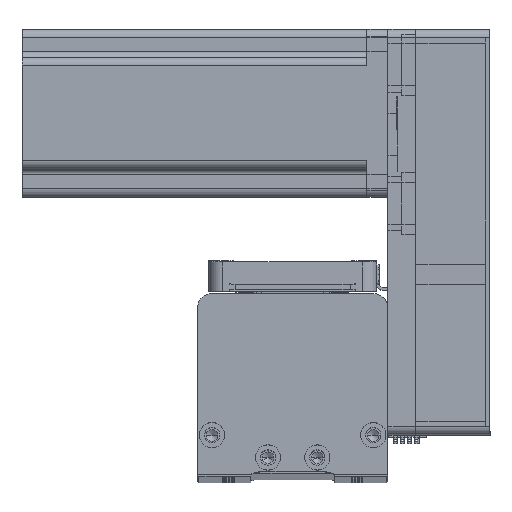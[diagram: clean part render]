
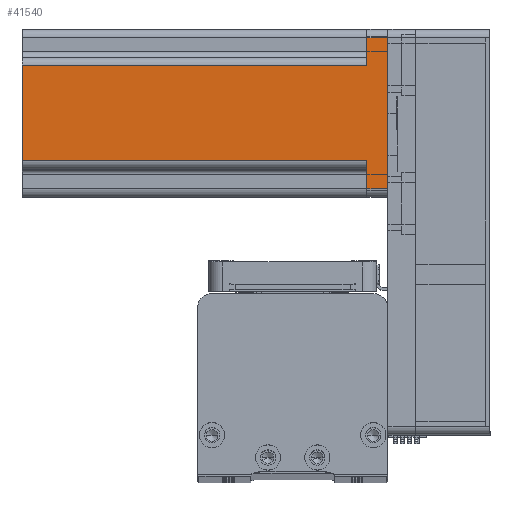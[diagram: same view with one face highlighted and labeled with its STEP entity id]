
A CAD part, top view. The second image highlights one B-rep face of the part: STEP entity #41540.
In plain terms, the highlighted planar face has unit normal (0, 0, 1) as drawn and (0, -1, 0) by its records, which use the part's own axes.
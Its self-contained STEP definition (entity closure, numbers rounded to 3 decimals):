
#156 = ORIENTED_EDGE ( 'NONE', *, *, #40600, .T. ) ;
#1071 = LINE ( 'NONE', #26239, #31840 ) ;
#1643 = CARTESIAN_POINT ( 'NONE',  ( 27., -30., 0. ) ) ;
#2800 = VECTOR ( 'NONE', #44318, 1000. ) ;
#3011 = CARTESIAN_POINT ( 'NONE',  ( 17., -30., 130.7 ) ) ;
#3127 = CARTESIAN_POINT ( 'NONE',  ( 20., -30., 7.5 ) ) ;
#3339 = EDGE_CURVE ( 'NONE', #24637, #8241, #43180, .T. ) ;
#4885 = ORIENTED_EDGE ( 'NONE', *, *, #3339, .T. ) ;
#5422 = PLANE ( 'NONE',  #41170 ) ;
#8241 = VERTEX_POINT ( 'NONE', #44110 ) ;
#8322 = ORIENTED_EDGE ( 'NONE', *, *, #42359, .T. ) ;
#9433 = VECTOR ( 'NONE', #32938, 1000. ) ;
#10915 = EDGE_CURVE ( 'NONE', #48720, #8241, #1071, .T. ) ;
#11987 = ORIENTED_EDGE ( 'NONE', *, *, #30490, .T. ) ;
#12565 = CARTESIAN_POINT ( 'NONE',  ( 27., -30., 7.5 ) ) ;
#13760 = EDGE_CURVE ( 'NONE', #23265, #28102, #33707, .T. ) ;
#14319 = DIRECTION ( 'NONE',  ( 0., 0., -1. ) ) ;
#14521 = DIRECTION ( 'NONE',  ( 0., 0., 1. ) ) ;
#17266 = VERTEX_POINT ( 'NONE', #24046 ) ;
#18992 = CARTESIAN_POINT ( 'NONE',  ( -17., -30., 130.7 ) ) ;
#19292 = ORIENTED_EDGE ( 'NONE', *, *, #13760, .T. ) ;
#19719 = LINE ( 'NONE', #21438, #9433 ) ;
#19871 = CARTESIAN_POINT ( 'NONE',  ( 27., -30., 130.7 ) ) ;
#20418 = ORIENTED_EDGE ( 'NONE', *, *, #46627, .T. ) ;
#20947 = CARTESIAN_POINT ( 'NONE',  ( 30., -30., 130.7 ) ) ;
#21438 = CARTESIAN_POINT ( 'NONE',  ( -17., -30., 130.7 ) ) ;
#22342 = CARTESIAN_POINT ( 'NONE',  ( -27., -30., 0. ) ) ;
#23265 = VERTEX_POINT ( 'NONE', #22342 ) ;
#23429 = VECTOR ( 'NONE', #31584, 1000. ) ;
#24046 = CARTESIAN_POINT ( 'NONE',  ( -17., -30., 7.5 ) ) ;
#24637 = VERTEX_POINT ( 'NONE', #27171 ) ;
#24840 = DIRECTION ( 'NONE',  ( -1., 0., 0. ) ) ;
#26239 = CARTESIAN_POINT ( 'NONE',  ( 30., -30., 130.7 ) ) ;
#26681 = VECTOR ( 'NONE', #45521, 1000. ) ;
#27171 = CARTESIAN_POINT ( 'NONE',  ( 17., -30., 7.5 ) ) ;
#27458 = LINE ( 'NONE', #19871, #46795 ) ;
#28102 = VERTEX_POINT ( 'NONE', #1643 ) ;
#30490 = EDGE_CURVE ( 'NONE', #48720, #17266, #19719, .T. ) ;
#30770 = EDGE_LOOP ( 'NONE', ( #42032, #11987, #44362, #156, #19292, #8322, #20418, #4885 ) ) ;
#31584 = DIRECTION ( 'NONE',  ( 1., 0., 0. ) ) ;
#31840 = VECTOR ( 'NONE', #41609, 1000. ) ;
#32401 = LINE ( 'NONE', #36509, #2800 ) ;
#32938 = DIRECTION ( 'NONE',  ( 0., 0., -1. ) ) ;
#33707 = LINE ( 'NONE', #35133, #23429 ) ;
#35133 = CARTESIAN_POINT ( 'NONE',  ( 30., -30., 0. ) ) ;
#35378 = DIRECTION ( 'NONE',  ( 0., 0., 1. ) ) ;
#35991 = VERTEX_POINT ( 'NONE', #12565 ) ;
#36509 = CARTESIAN_POINT ( 'NONE',  ( -20., -30., 7.5 ) ) ;
#36929 = LINE ( 'NONE', #3127, #26681 ) ;
#37361 = EDGE_CURVE ( 'NONE', #49996, #17266, #32401, .T. ) ;
#39692 = FACE_OUTER_BOUND ( 'NONE', #30770, .T. ) ;
#39845 = VECTOR ( 'NONE', #14319, 1000. ) ;
#40600 = EDGE_CURVE ( 'NONE', #49996, #23265, #41067, .T. ) ;
#41067 = LINE ( 'NONE', #41331, #39845 ) ;
#41170 = AXIS2_PLACEMENT_3D ( 'NONE', #20947, #47971, #24840 ) ;
#41331 = CARTESIAN_POINT ( 'NONE',  ( -27., -30., 130.7 ) ) ;
#41540 = ADVANCED_FACE ( 'NONE', ( #39692 ), #5422, .F. ) ;
#41609 = DIRECTION ( 'NONE',  ( 1., 0., 0. ) ) ;
#42032 = ORIENTED_EDGE ( 'NONE', *, *, #10915, .F. ) ;
#42359 = EDGE_CURVE ( 'NONE', #28102, #35991, #27458, .T. ) ;
#43180 = LINE ( 'NONE', #3011, #44386 ) ;
#44110 = CARTESIAN_POINT ( 'NONE',  ( 17., -30., 130.7 ) ) ;
#44318 = DIRECTION ( 'NONE',  ( 1., 0., 0. ) ) ;
#44343 = CARTESIAN_POINT ( 'NONE',  ( -27., -30., 7.5 ) ) ;
#44362 = ORIENTED_EDGE ( 'NONE', *, *, #37361, .F. ) ;
#44386 = VECTOR ( 'NONE', #14521, 1000. ) ;
#45521 = DIRECTION ( 'NONE',  ( -1., 0., 0. ) ) ;
#46627 = EDGE_CURVE ( 'NONE', #35991, #24637, #36929, .T. ) ;
#46795 = VECTOR ( 'NONE', #35378, 1000. ) ;
#47971 = DIRECTION ( 'NONE',  ( 0., 1., 0. ) ) ;
#48720 = VERTEX_POINT ( 'NONE', #18992 ) ;
#49996 = VERTEX_POINT ( 'NONE', #44343 ) ;
